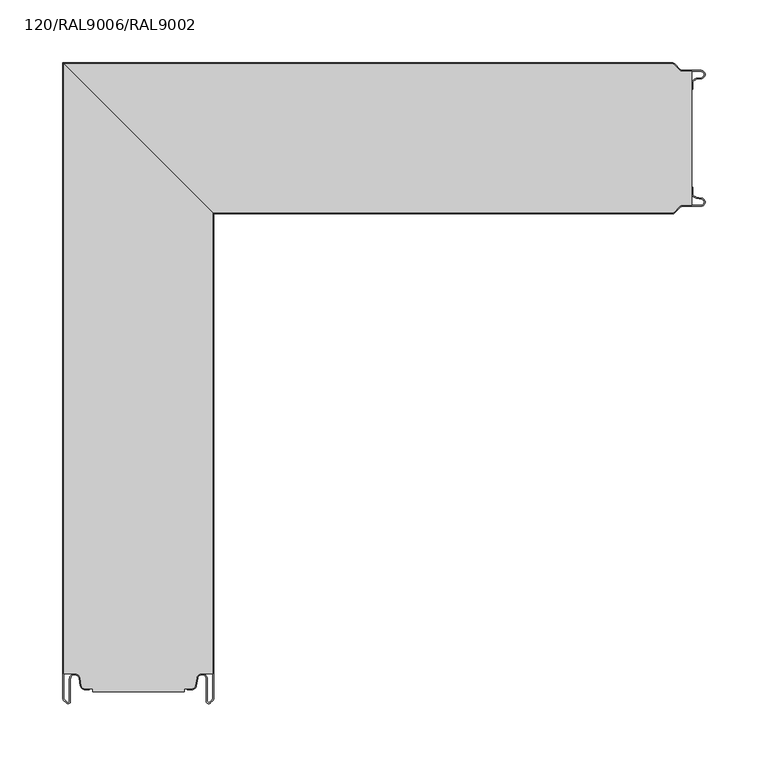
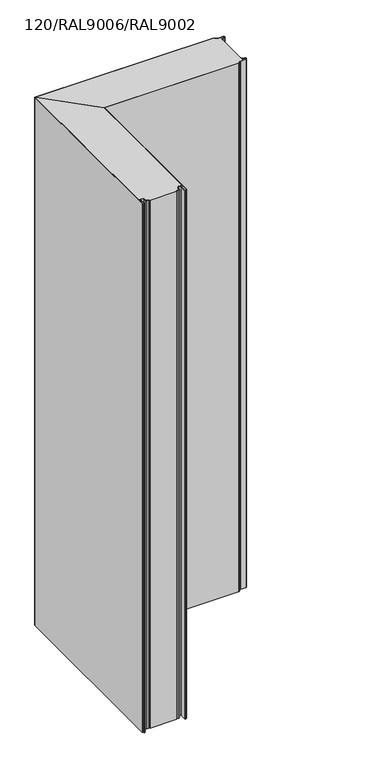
"""IFC4 building model written with IfcOpenShell, lengths in millimetres: plate geometry, TR_C_V_FTV_Corner_Long_B : 120/RAL9006/RAL9002."""

from ifc_helpers import new_model, si_unit, point, frame, frame_2d, origin, place, context, project, spatial, polyline, circle_curve, trimmed, segment, composite_curve, outline, extrude, source, transform, mapped, element, save


def plate_120_ral9006_ral9002_272a4879(model_context):
    return source(origin(), model_context, "Body", "SweptSolid", [
        extrude(outline(composite_curve([segment(polyline([(-249.2000002, -0.8), (-130.8000002, -119.2), (-130.8000002, -485.5999988), (-139.4500002, -485.5999988)]), True, "CONTINUOUS"), segment(trimmed(circle_curve(frame_2d((-139.4500002, -489.8499988)), 4.25), [point((-139.4500002, -485.5999988))], [point((-143.6354331, -489.1119941))], True, "CARTESIAN"), True, "CONTINUOUS"), segment(polyline([(-143.6354331, -489.1119941), (-144.7022584, -495.162261)]), True, "CONTINUOUS"), segment(trimmed(circle_curve(frame_2d((-147.6074413, -494.6499988)), 2.95), [point((-144.7022584, -495.162261))], [point((-147.6074413, -497.5999988))], False, "CARTESIAN"), True, "CONTINUOUS"), segment(polyline([(-147.6074413, -497.5999988), (-153.7000002, -497.5999988), (-153.7000002, -500.0), (-226.3000002, -500.0), (-226.3000002, -497.5999988), (-232.392559, -497.5999988)]), True, "CONTINUOUS"), segment(trimmed(circle_curve(frame_2d((-232.392559, -494.6499988)), 2.95), [point((-232.392559, -497.5999988))], [point((-235.2977419, -495.162261))], False, "CARTESIAN"), True, "CONTINUOUS"), segment(polyline([(-235.2977419, -495.162261), (-236.3645672, -489.1119941)]), True, "CONTINUOUS"), segment(trimmed(circle_curve(frame_2d((-240.5500002, -489.8499988)), 4.25), [point((-236.3645672, -489.1119941))], [point((-240.5500002, -485.5999988))], True, "CARTESIAN"), True, "CONTINUOUS"), segment(polyline([(-240.5500002, -485.5999988), (-249.2000002, -485.5999988), (-249.2000002, -0.8)]), True, "CONTINUOUS")], self_intersect=False)), frame((0.0, 0.0, -15.0), z_axis=(0.0, 0.0, 1.0), x_axis=(1.0, 0.0, 0.0)), (0.0, 0.0, 1.0), 1515.0),
        extrude(outline(composite_curve([segment(polyline([(250.0000003, -6.8), (250.0000003, -113.2), (242.6000012, -113.2)]), True, "CONTINUOUS"), segment(trimmed(circle_curve(frame_2d((242.6000012, -116.5)), 3.3), [point((242.6000012, -113.2))], [point((240.2665488, -114.1665476))], True, "CARTESIAN"), True, "CONTINUOUS"), segment(polyline([(240.2665488, -114.1665476), (235.8774615, -118.5556349)]), True, "CONTINUOUS"), segment(trimmed(circle_curve(frame_2d((234.3218266, -117.0)), 2.2), [point((235.8774615, -118.5556349))], [point((234.3218266, -119.2))], False, "CARTESIAN"), True, "CONTINUOUS"), segment(polyline([(234.3218266, -119.2), (-130.8000002, -119.2), (-249.2000002, -0.8), (234.3218266, -0.8)]), True, "CONTINUOUS"), segment(trimmed(circle_curve(frame_2d((234.3218266, -3.0)), 2.2), [point((234.3218266, -0.8))], [point((235.8774615, -1.4443651))], False, "CARTESIAN"), True, "CONTINUOUS"), segment(polyline([(235.8774615, -1.4443651), (240.2665488, -5.8334524)]), True, "CONTINUOUS"), segment(trimmed(circle_curve(frame_2d((242.6000012, -3.5)), 3.3), [point((240.2665488, -5.8334524))], [point((242.6000012, -6.8))], True, "CARTESIAN"), True, "CONTINUOUS"), segment(polyline([(242.6000012, -6.8), (250.0000003, -6.8)]), True, "CONTINUOUS")], self_intersect=False)), frame((0.0, 0.0, -15.0), z_axis=(0.0, 0.0, 1.0), x_axis=(1.0, 0.0, 0.0)), (0.0, 0.0, 1.0), 1515.0),
        extrude(outline(composite_curve([segment(polyline([(-147.6074413, -498.3999988), (-151.0000002, -498.3999988), (-151.0000002, -497.5999988), (-147.6074413, -497.5999988)]), True, "CONTINUOUS"), segment(trimmed(circle_curve(frame_2d((-147.6074413, -494.6499988)), 2.95), [point((-147.6074413, -497.5999988))], [point((-144.7022584, -495.162261))], True, "CARTESIAN"), True, "CONTINUOUS"), segment(polyline([(-144.7022584, -495.162261), (-143.6354331, -489.1119941)]), True, "CONTINUOUS"), segment(trimmed(circle_curve(frame_2d((-139.4500002, -489.8499988)), 4.25), [point((-143.6354331, -489.1119941))], [point((-135.2000002, -489.8499988))], False, "CARTESIAN"), True, "CONTINUOUS"), segment(polyline([(-135.2000002, -489.8499988), (-135.2000002, -507.4499988)]), True, "CONTINUOUS"), segment(trimmed(circle_curve(frame_2d((-134.0500002, -507.4499988)), 1.15), [point((-135.2000002, -507.4499988))], [point((-133.2368274, -508.2631716))], True, "CARTESIAN"), True, "CONTINUOUS"), segment(polyline([(-133.2368274, -508.2631716), (-131.3711419, -506.3974862)]), True, "CONTINUOUS"), segment(trimmed(circle_curve(frame_2d((-132.7500002, -505.018628)), 1.95), [point((-131.3711419, -506.3974862))], [point((-130.8000002, -505.018628))], True, "CARTESIAN"), True, "CONTINUOUS"), segment(polyline([(-130.8000002, -505.018628), (-130.8000002, -119.2), (-130.0000002, -120.0), (-130.0000002, -505.018628)]), True, "CONTINUOUS"), segment(trimmed(circle_curve(frame_2d((-132.7500002, -505.018628)), 2.75), [point((-130.0000002, -505.018628))], [point((-130.8054565, -506.9631716))], False, "CARTESIAN"), True, "CONTINUOUS"), segment(polyline([(-130.8054565, -506.9631716), (-132.6711419, -508.8288571)]), True, "CONTINUOUS"), segment(trimmed(circle_curve(frame_2d((-134.0500002, -507.4499988)), 1.95), [point((-132.6711419, -508.8288571))], [point((-136.0000002, -507.4499988))], False, "CARTESIAN"), True, "CONTINUOUS"), segment(polyline([(-136.0000002, -507.4499988), (-136.0000002, -489.8499988)]), True, "CONTINUOUS"), segment(trimmed(circle_curve(frame_2d((-139.4500002, -489.8499988)), 3.45), [point((-136.0000002, -489.8499988))], [point((-142.8475869, -489.2509126))], True, "CARTESIAN"), True, "CONTINUOUS"), segment(polyline([(-142.8475869, -489.2509126), (-143.9144122, -495.3011795)]), True, "CONTINUOUS"), segment(trimmed(circle_curve(frame_2d((-147.6074413, -494.6499988)), 3.75), [point((-143.9144122, -495.3011795))], [point((-147.6074413, -498.3999988))], False, "CARTESIAN"), True, "CONTINUOUS")], self_intersect=False)), frame((0.0, 0.0, -15.0), z_axis=(0.0, 0.0, 1.0), x_axis=(1.0, 0.0, 0.0)), (0.0, 0.0, 1.0), 1515.0),
        extrude(outline(composite_curve([segment(trimmed(circle_curve(frame_2d((-232.392559, -494.6499988)), 3.75), [point((-232.392559, -498.3999988))], [point((-236.0855881, -495.3011795))], False, "CARTESIAN"), True, "CONTINUOUS"), segment(polyline([(-236.0855881, -495.3011795), (-237.1524134, -489.2509126)]), True, "CONTINUOUS"), segment(trimmed(circle_curve(frame_2d((-240.5500002, -489.8499988)), 3.45), [point((-237.1524134, -489.2509126))], [point((-244.0000002, -489.8499988))], True, "CARTESIAN"), True, "CONTINUOUS"), segment(polyline([(-244.0000002, -489.8499988), (-244.0000002, -507.4499988)]), True, "CONTINUOUS"), segment(trimmed(circle_curve(frame_2d((-245.9500002, -507.4499988)), 1.95), [point((-244.0000002, -507.4499988))], [point((-247.3288584, -508.8288571))], False, "CARTESIAN"), True, "CONTINUOUS"), segment(polyline([(-247.3288584, -508.8288571), (-249.1945438, -506.9631716)]), True, "CONTINUOUS"), segment(trimmed(circle_curve(frame_2d((-247.2500002, -505.018628)), 2.75), [point((-249.1945438, -506.9631716))], [point((-250.0000002, -505.018628))], False, "CARTESIAN"), True, "CONTINUOUS"), segment(polyline([(-250.0000002, -505.018628), (-250.0000002, 2e-07), (-249.2000002, -0.8), (-249.2000002, -505.018628)]), True, "CONTINUOUS"), segment(trimmed(circle_curve(frame_2d((-247.2500002, -505.018628)), 1.95), [point((-249.2000002, -505.018628))], [point((-248.6288584, -506.3974862))], True, "CARTESIAN"), True, "CONTINUOUS"), segment(polyline([(-248.6288584, -506.3974862), (-246.763173, -508.2631716)]), True, "CONTINUOUS"), segment(trimmed(circle_curve(frame_2d((-245.9500002, -507.4499988)), 1.15), [point((-246.763173, -508.2631716))], [point((-244.8000002, -507.4499988))], True, "CARTESIAN"), True, "CONTINUOUS"), segment(polyline([(-244.8000002, -507.4499988), (-244.8000002, -489.8499988)]), True, "CONTINUOUS"), segment(trimmed(circle_curve(frame_2d((-240.5500002, -489.8499988)), 4.25), [point((-244.8000002, -489.8499988))], [point((-236.3645672, -489.1119941))], False, "CARTESIAN"), True, "CONTINUOUS"), segment(polyline([(-236.3645672, -489.1119941), (-235.2977419, -495.162261)]), True, "CONTINUOUS"), segment(trimmed(circle_curve(frame_2d((-232.392559, -494.6499988)), 2.95), [point((-235.2977419, -495.162261))], [point((-232.392559, -497.5999988))], True, "CARTESIAN"), True, "CONTINUOUS"), segment(polyline([(-232.392559, -497.5999988), (-229.0000002, -497.5999988), (-229.0000002, -498.3999988), (-232.392559, -498.3999988)]), True, "CONTINUOUS")], self_intersect=False)), frame((0.0, 0.0, -15.0), z_axis=(0.0, 0.0, 1.0), x_axis=(1.0, 0.0, 0.0)), (0.0, 0.0, 1.0), 1515.0),
        extrude(outline(composite_curve([segment(trimmed(circle_curve(frame_2d((254.3500012, -16.8869672)), 4.55), [point((249.8000012, -16.8869672))], [point((253.559902, -12.4060919))], False, "CARTESIAN"), True, "CONTINUOUS"), segment(polyline([(253.559902, -12.4060919), (257.7754392, -11.662779)]), True, "CONTINUOUS"), segment(trimmed(circle_curve(frame_2d((257.3500012, -9.25)), 2.45), [point((257.7754392, -11.662779))], [point((257.3500012, -6.8))], True, "CARTESIAN"), True, "CONTINUOUS"), segment(polyline([(257.3500012, -6.8), (242.6000012, -6.8)]), True, "CONTINUOUS"), segment(trimmed(circle_curve(frame_2d((242.6000012, -3.5)), 3.3), [point((242.6000012, -6.8))], [point((240.2665488, -5.8334524))], False, "CARTESIAN"), True, "CONTINUOUS"), segment(polyline([(240.2665488, -5.8334524), (235.8774615, -1.4443651)]), True, "CONTINUOUS"), segment(trimmed(circle_curve(frame_2d((234.3218266, -3.0)), 2.2), [point((235.8774615, -1.4443651))], [point((234.3218266, -0.8))], True, "CARTESIAN"), True, "CONTINUOUS"), segment(polyline([(234.3218266, -0.8), (-249.2000002, -0.8), (-250.0, 0.0), (234.3218266, 0.0)]), True, "CONTINUOUS"), segment(trimmed(circle_curve(frame_2d((234.3218266, -3.0)), 3.0), [point((234.3218266, 0.0))], [point((236.4431469, -0.8786797))], False, "CARTESIAN"), True, "CONTINUOUS"), segment(polyline([(236.4431469, -0.8786797), (240.8322342, -5.267767)]), True, "CONTINUOUS"), segment(trimmed(circle_curve(frame_2d((242.6000012, -3.5)), 2.5), [point((240.8322342, -5.267767))], [point((242.6000012, -6.0))], True, "CARTESIAN"), True, "CONTINUOUS"), segment(polyline([(242.6000012, -6.0), (257.3500012, -6.0)]), True, "CONTINUOUS"), segment(trimmed(circle_curve(frame_2d((257.3500012, -9.25)), 3.25), [point((257.3500012, -6.0))], [point((257.9143577, -12.4506252))], False, "CARTESIAN"), True, "CONTINUOUS"), segment(polyline([(257.9143577, -12.4506252), (253.6988205, -13.1939382)]), True, "CONTINUOUS"), segment(trimmed(circle_curve(frame_2d((254.3500012, -16.8869672)), 3.75), [point((253.6988205, -13.1939382))], [point((250.6000012, -16.8869672))], True, "CARTESIAN"), True, "CONTINUOUS"), segment(polyline([(250.6000012, -16.8869672), (250.6000012, -21.0), (249.8000012, -21.0), (249.8000012, -16.8869672)]), True, "CONTINUOUS")], self_intersect=False)), frame((0.0, 0.0, -15.0), z_axis=(0.0, 0.0, 1.0), x_axis=(1.0, 0.0, 0.0)), (0.0, 0.0, 1.0), 1515.0),
        extrude(outline(composite_curve([segment(polyline([(249.8000013, -103.1130328), (249.8000013, -99.0), (250.6000013, -99.0), (250.6000013, -103.1130328)]), True, "CONTINUOUS"), segment(trimmed(circle_curve(frame_2d((254.3500013, -103.1130328)), 3.75), [point((250.6000013, -103.1130328))], [point((253.6988207, -106.8060618))], True, "CARTESIAN"), True, "CONTINUOUS"), segment(polyline([(253.6988207, -106.8060618), (257.9143579, -107.5493748)]), True, "CONTINUOUS"), segment(trimmed(circle_curve(frame_2d((257.3500013, -110.75)), 3.25), [point((257.9143579, -107.5493748))], [point((257.3500013, -114.0))], False, "CARTESIAN"), True, "CONTINUOUS"), segment(polyline([(257.3500013, -114.0), (242.6000013, -114.0)]), True, "CONTINUOUS"), segment(trimmed(circle_curve(frame_2d((242.6000013, -116.5)), 2.5), [point((242.6000013, -114.0))], [point((240.8322344, -114.732233))], True, "CARTESIAN"), True, "CONTINUOUS"), segment(polyline([(240.8322344, -114.732233), (236.4431471, -119.1213203)]), True, "CONTINUOUS"), segment(trimmed(circle_curve(frame_2d((234.3218267, -117.0)), 3.0), [point((236.4431471, -119.1213203))], [point((234.3218267, -120.0))], False, "CARTESIAN"), True, "CONTINUOUS"), segment(polyline([(234.3218267, -120.0), (-130.0000002, -120.0), (-130.8000002, -119.2), (234.3218267, -119.2)]), True, "CONTINUOUS"), segment(trimmed(circle_curve(frame_2d((234.3218267, -117.0)), 2.2), [point((234.3218267, -119.2))], [point((235.8774616, -118.5556349))], True, "CARTESIAN"), True, "CONTINUOUS"), segment(polyline([(235.8774616, -118.5556349), (240.2665489, -114.1665476)]), True, "CONTINUOUS"), segment(trimmed(circle_curve(frame_2d((242.6000013, -116.5)), 3.3), [point((240.2665489, -114.1665476))], [point((242.6000013, -113.2))], False, "CARTESIAN"), True, "CONTINUOUS"), segment(polyline([(242.6000013, -113.2), (257.3500013, -113.2)]), True, "CONTINUOUS"), segment(trimmed(circle_curve(frame_2d((257.3500013, -110.75)), 2.45), [point((257.3500013, -113.2))], [point((257.7754394, -108.337221))], True, "CARTESIAN"), True, "CONTINUOUS"), segment(polyline([(257.7754394, -108.337221), (253.5599021, -107.5939081)]), True, "CONTINUOUS"), segment(trimmed(circle_curve(frame_2d((254.3500013, -103.1130328)), 4.55), [point((253.5599021, -107.5939081))], [point((249.8000013, -103.1130328))], False, "CARTESIAN"), True, "CONTINUOUS")], self_intersect=False)), frame((0.0, 0.0, -15.0), z_axis=(0.0, 0.0, 1.0), x_axis=(1.0, 0.0, 0.0)), (0.0, 0.0, 1.0), 1515.0),
    ])


if __name__ == "__main__":
    model = new_model("IFC4")
    model_context = context("Model", 3, world=origin())
    ifc_project = project(units=[si_unit("LENGTHUNIT", "METRE", prefix="MILLI")], contexts=[model_context])
    site = spatial("IfcSite", under=ifc_project)
    building = spatial("IfcBuilding", under=site)
    placement = place(None, origin())
    plate_120_ral9006_ral9002_shape = plate_120_ral9006_ral9002_272a4879(model_context)
    element("IfcPlate", 1, ObjectType="TR_C_V_FTV_Corner_Long_B : 120/RAL9006/RAL9002", at=placement, inside=building, context=model_context, shape_type="MappedRepresentation", body=[
        mapped(plate_120_ral9006_ral9002_shape, transform((0.0, 0.0, 0.0), x_axis=(1.0, 0.0, 0.0), y_axis=(0.0, 1.0, 0.0), z_axis=(0.0, 0.0, 1.0))),
    ])
    save(model, "model.ifc")
